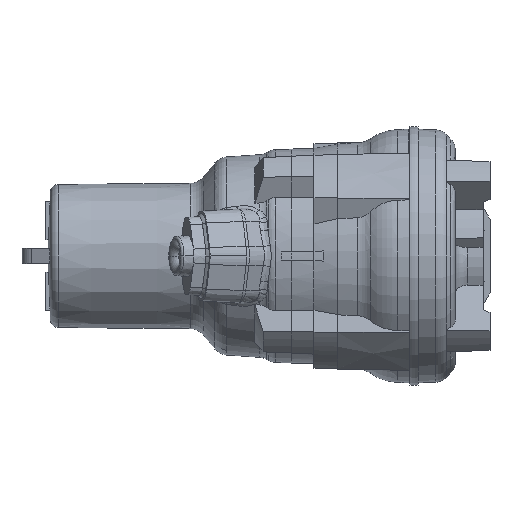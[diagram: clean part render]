
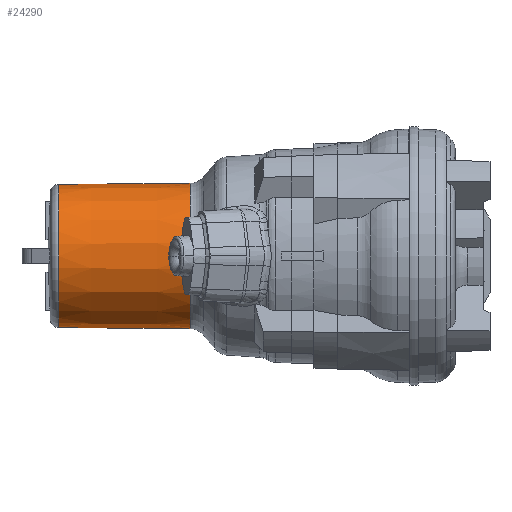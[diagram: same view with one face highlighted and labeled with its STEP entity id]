
A CAD part, left-side view. The second image highlights one B-rep face of the part: STEP entity #24290.
In plain terms, the highlighted conical face has half-angle 0.494 degrees and reference radius 84.5 mm.
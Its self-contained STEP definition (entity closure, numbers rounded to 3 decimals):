
#1116 = ORIENTED_EDGE ( 'NONE', *, *, #22762, .T. ) ;
#1558 = CARTESIAN_POINT ( 'NONE',  ( -85.871, 123.221, 2.923 ) ) ;
#1575 = ORIENTED_EDGE ( 'NONE', *, *, #13533, .T. ) ;
#2004 = CARTESIAN_POINT ( 'NONE',  ( 0., 123.221, 0. ) ) ;
#2539 = CARTESIAN_POINT ( 'NONE',  ( -85.917, 123.675, 0.482 ) ) ;
#2880 = ORIENTED_EDGE ( 'NONE', *, *, #15369, .T. ) ;
#4068 = DIRECTION ( 'NONE',  ( 0., 1., 0. ) ) ;
#4723 = CARTESIAN_POINT ( 'NONE',  ( -85.871, 123.221, 2.923 ) ) ;
#4821 = FACE_OUTER_BOUND ( 'NONE', #20191, .T. ) ;
#5550 = CONICAL_SURFACE ( 'NONE', #11337, 84.5, 0.009 ) ;
#5817 = DIRECTION ( 'NONE',  ( 0., 1., 0. ) ) ;
#6189 = CARTESIAN_POINT ( 'NONE',  ( 0., 288., 84.5 ) ) ;
#6531 = LINE ( 'NONE', #19461, #8456 ) ;
#6662 = CARTESIAN_POINT ( 'NONE',  ( -85.913, 123.636, 0.983 ) ) ;
#7427 = VERTEX_POINT ( 'NONE', #12760 ) ;
#7455 = EDGE_CURVE ( 'NONE', #7427, #24587, #11372, .T. ) ;
#8146 = CARTESIAN_POINT ( 'NONE',  ( 0., 123.221, 0. ) ) ;
#8456 = VECTOR ( 'NONE', #25189, 1000. ) ;
#10549 = CARTESIAN_POINT ( 'NONE',  ( -85.886, 123.369, 2.446 ) ) ;
#11337 = AXIS2_PLACEMENT_3D ( 'NONE', #20375, #12727, #14533 ) ;
#11372 = B_SPLINE_CURVE_WITH_KNOTS ( 'NONE', 3,
 ( #16764, #22344, #13012, #2539, #6662, #24430, #10549, #4723 ),
 .UNSPECIFIED., .F., .F.,
 ( 4, 2, 2, 4 ),
 ( 0., 0.003, 0.004, 0.006 ),
 .UNSPECIFIED. ) ;
#12312 = CIRCLE ( 'NONE', #15624, 85.921 ) ;
#12596 = VERTEX_POINT ( 'NONE', #13906 ) ;
#12604 = VERTEX_POINT ( 'NONE', #14166 ) ;
#12727 = DIRECTION ( 'NONE',  ( 0., -1., 0. ) ) ;
#12760 = CARTESIAN_POINT ( 'NONE',  ( -85.871, 123.221, -2.923 ) ) ;
#12921 = DIRECTION ( 'NONE',  ( 0., -1., 0. ) ) ;
#13012 = CARTESIAN_POINT ( 'NONE',  ( -85.916, 123.673, -1.001 ) ) ;
#13533 = EDGE_CURVE ( 'NONE', #12604, #7427, #12312, .T. ) ;
#13906 = CARTESIAN_POINT ( 'NONE',  ( 0., 123.221, 85.921 ) ) ;
#14037 = EDGE_CURVE ( 'NONE', #24090, #12596, #23947, .T. ) ;
#14166 = CARTESIAN_POINT ( 'NONE',  ( 0., 123.221, -85.921 ) ) ;
#14348 = ORIENTED_EDGE ( 'NONE', *, *, #7455, .T. ) ;
#14482 = CARTESIAN_POINT ( 'NONE',  ( 0., 278.764, 0. ) ) ;
#14533 = DIRECTION ( 'NONE',  ( 0., 0., -1. ) ) ;
#15369 = EDGE_CURVE ( 'NONE', #24090, #19024, #22306, .T. ) ;
#15624 = AXIS2_PLACEMENT_3D ( 'NONE', #2004, #4068, #15858 ) ;
#15858 = DIRECTION ( 'NONE',  ( 0., 0., -1. ) ) ;
#16764 = CARTESIAN_POINT ( 'NONE',  ( -85.871, 123.221, -2.923 ) ) ;
#17290 = EDGE_CURVE ( 'NONE', #24587, #12596, #18445, .T. ) ;
#17684 = ORIENTED_EDGE ( 'NONE', *, *, #14037, .F. ) ;
#17747 = DIRECTION ( 'NONE',  ( 0., 0., -1. ) ) ;
#18445 = CIRCLE ( 'NONE', #20106, 85.921 ) ;
#18752 = DIRECTION ( 'NONE',  ( 0., 0., 1. ) ) ;
#18848 = ORIENTED_EDGE ( 'NONE', *, *, #17290, .T. ) ;
#19024 = VERTEX_POINT ( 'NONE', #22733 ) ;
#19461 = CARTESIAN_POINT ( 'NONE',  ( 0., 288., -84.5 ) ) ;
#20106 = AXIS2_PLACEMENT_3D ( 'NONE', #8146, #5817, #17747 ) ;
#20191 = EDGE_LOOP ( 'NONE', ( #17684, #2880, #1116, #1575, #14348, #18848 ) ) ;
#20375 = CARTESIAN_POINT ( 'NONE',  ( 0., 288., 0. ) ) ;
#22306 = CIRCLE ( 'NONE', #22697, 84.58 ) ;
#22312 = CARTESIAN_POINT ( 'NONE',  ( 0., 278.764, 84.58 ) ) ;
#22344 = CARTESIAN_POINT ( 'NONE',  ( -85.901, 123.517, -1.97 ) ) ;
#22697 = AXIS2_PLACEMENT_3D ( 'NONE', #14482, #12921, #18752 ) ;
#22733 = CARTESIAN_POINT ( 'NONE',  ( 0., 278.764, -84.58 ) ) ;
#22762 = EDGE_CURVE ( 'NONE', #19024, #12604, #6531, .T. ) ;
#23947 = LINE ( 'NONE', #6189, #24344 ) ;
#24090 = VERTEX_POINT ( 'NONE', #22312 ) ;
#24290 = ADVANCED_FACE ( 'NONE', ( #4821 ), #5550, .T. ) ;
#24344 = VECTOR ( 'NONE', #25642, 1000. ) ;
#24430 = CARTESIAN_POINT ( 'NONE',  ( -85.897, 123.483, 1.963 ) ) ;
#24587 = VERTEX_POINT ( 'NONE', #1558 ) ;
#25189 = DIRECTION ( 'NONE',  ( 0., -1., -0.009 ) ) ;
#25642 = DIRECTION ( 'NONE',  ( 0., -1., 0.009 ) ) ;
